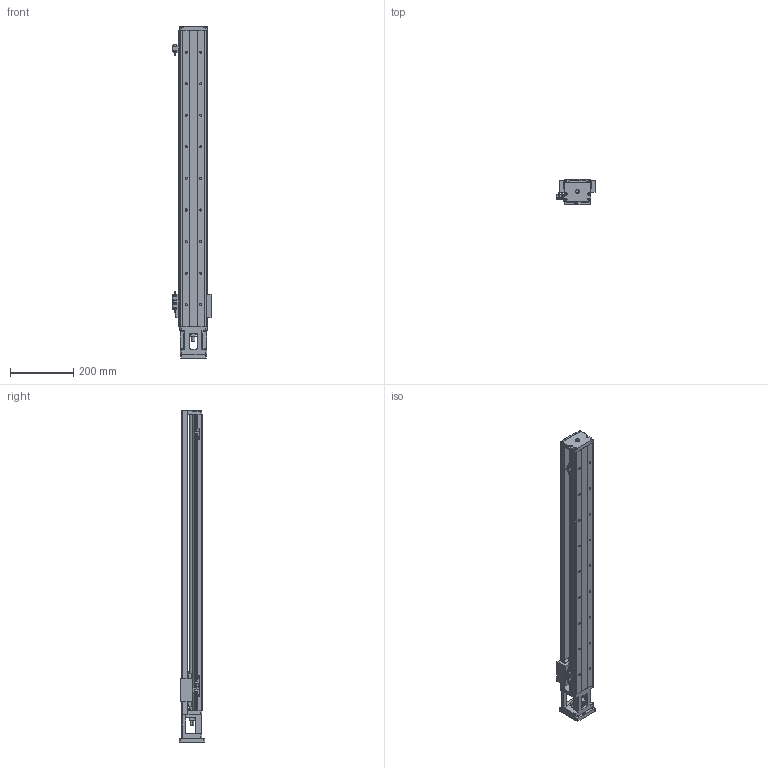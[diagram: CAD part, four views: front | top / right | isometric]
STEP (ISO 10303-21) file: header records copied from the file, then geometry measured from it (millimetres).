
FILE_DESCRIPTION (( 'STEP AP203' ), '1' );
FILE_NAME ('KH86D10C-940A1-F8CS2.STEP', '2024-01-08T01:37:17', ( '' ), ( '' ), 'SwSTEP 2.0', 'SolidWorks 2016', '' );
FILE_SCHEMA (( 'CONFIG_CONTROL_DESIGN' ));
Length unit declared in the file: millimetre
Products named in the file (48): 86賑輸; KK60-08-01; 鞠褒蹟譫M3; KH86-04-05-02; KK86-蛌諉釱; KH86-綴釱_KK86-05-01; PM-Y45; 囀鞠褒す埴芛蹟隊M3℅4; 囀鞠褒す埴芛蹟隊M3℅5; 嫖萇羲壽-L; 囀鞠褒す埴芛蹟隊M4℅10; KH86-01-XXX; 嫖萇羲壽-R; KK86-03-F8; ヶ盓釱; KH86-A1; KH86D10C-940A1-F8CS2
Assembly tree (29 placements, depth 3):
  86賑輸
  KK60-08-01
  鞠褒蹟譫M3
  鞠褒蹟譫M3
  KK86-蛌諉釱
Bounding box: 121 x 80 x 1052 mm (x, y, z)
Volume: 2552956.6 mm3; surface area: 714336.5 mm2
Topology: 22 solids, 67 shells, 1840 faces, 4745 edges, 3009 vertices
Faces by surface type: plane 804, cylinder 535, cone 319, bspline 182
Entity records: 51694 total; most frequent: CARTESIAN_POINT 16674, ORIENTED_EDGE 6559, DIRECTION 5919, EDGE_CURVE 3291, VERTEX_POINT 2162, AXIS2_PLACEMENT_3D 1997, VECTOR 1925, LINE 1925
